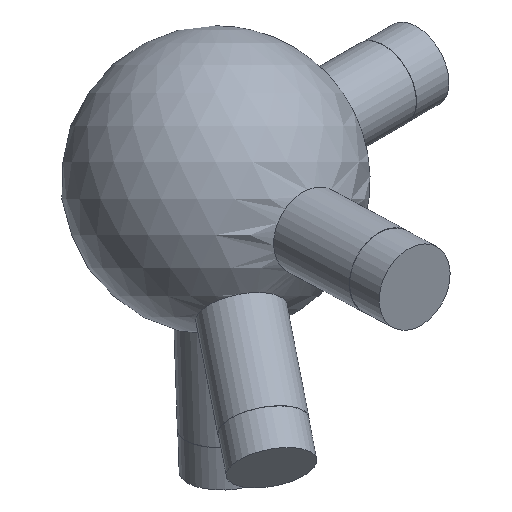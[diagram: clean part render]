
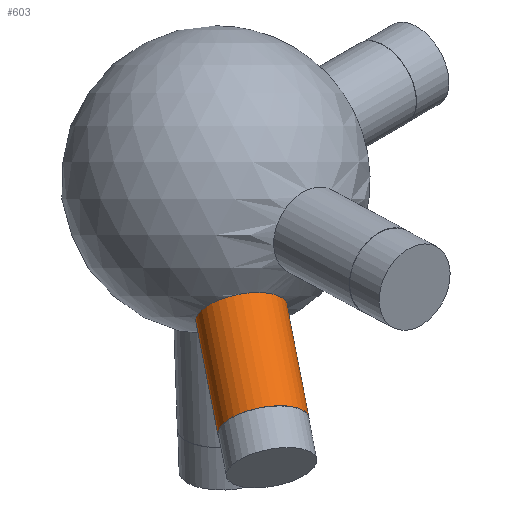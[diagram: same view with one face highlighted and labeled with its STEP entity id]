
A CAD part, front view. The second image highlights one B-rep face of the part: STEP entity #603.
In plain terms, the highlighted cylindrical face has radius 6 mm (diameter 12 mm), a full revolution.
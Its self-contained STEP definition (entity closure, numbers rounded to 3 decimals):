
#35 = SPHERICAL_SURFACE('',#36,20.);
#36 = AXIS2_PLACEMENT_3D('',#37,#38,#39);
#37 = CARTESIAN_POINT('',(0.,0.,0.));
#38 = DIRECTION('',(0.,0.,1.));
#39 = DIRECTION('',(1.,0.,-0.));
#172 = EDGE_CURVE('',#173,#173,#175,.T.);
#173 = VERTEX_POINT('',#174);
#174 = CARTESIAN_POINT('',(3.347,-13.147,
    -14.695));
#175 = SURFACE_CURVE('',#176,(#181,#278),.PCURVE_S1.);
#176 = CIRCLE('',#177,6.);
#177 = AXIS2_PLACEMENT_3D('',#178,#179,#180);
#178 = CARTESIAN_POINT('',(3.347,-7.67,
    -17.145));
#179 = DIRECTION('',(0.175,-0.402,-0.899));
#180 = DIRECTION('',(0.,0.913,-0.408)
  );
#181 = PCURVE('',#35,#182);
#182 = DEFINITIONAL_REPRESENTATION('',(#183),#277);
#183 = B_SPLINE_CURVE_WITH_KNOTS('',8,(#184,#185,#186,#187,#188,#189,
    #190,#191,#192,#193,#194,#195,#196,#197,#198,#199,#200,#201,#202,
    #203,#204,#205,#206,#207,#208,#209,#210,#211,#212,#213,#214,#215,
    #216,#217,#218,#219,#220,#221,#222,#223,#224,#225,#226,#227,#228,
    #229,#230,#231,#232,#233,#234,#235,#236,#237,#238,#239,#240,#241,
    #242,#243,#244,#245,#246,#247,#248,#249,#250,#251,#252,#253,#254,
    #255,#256,#257,#258,#259,#260,#261,#262,#263,#264,#265,#266,#267,
    #268,#269,#270,#271,#272,#273,#274,#275,#276),.UNSPECIFIED.,.T.,.F.,
  (9,7,7,7,7,7,7,7,7,7,7,7,7,9),(3.142,3.927,
    4.614,4.915,5.197,5.461,
    5.709,5.941,6.159,6.363,
    6.746,7.415,8.42,9.425),
  .UNSPECIFIED.);
#184 = CARTESIAN_POINT('',(4.962,-0.825));
#185 = CARTESIAN_POINT('',(4.92,-0.832));
#186 = CARTESIAN_POINT('',(4.878,-0.841));
#187 = CARTESIAN_POINT('',(4.836,-0.852));
#188 = CARTESIAN_POINT('',(4.796,-0.865));
#189 = CARTESIAN_POINT('',(4.756,-0.88));
#190 = CARTESIAN_POINT('',(4.717,-0.897));
#191 = CARTESIAN_POINT('',(4.679,-0.915));
#192 = CARTESIAN_POINT('',(4.611,-0.952));
#193 = CARTESIAN_POINT('',(4.58,-0.971));
#194 = CARTESIAN_POINT('',(4.55,-0.991));
#195 = CARTESIAN_POINT('',(4.522,-1.012));
#196 = CARTESIAN_POINT('',(4.495,-1.034));
#197 = CARTESIAN_POINT('',(4.47,-1.056));
#198 = CARTESIAN_POINT('',(4.447,-1.08));
#199 = CARTESIAN_POINT('',(4.419,-1.115));
#200 = CARTESIAN_POINT('',(4.41,-1.125));
#201 = CARTESIAN_POINT('',(4.403,-1.136));
#202 = CARTESIAN_POINT('',(4.396,-1.147));
#203 = CARTESIAN_POINT('',(4.39,-1.158));
#204 = CARTESIAN_POINT('',(4.385,-1.169));
#205 = CARTESIAN_POINT('',(4.38,-1.18));
#206 = CARTESIAN_POINT('',(4.373,-1.202));
#207 = CARTESIAN_POINT('',(4.371,-1.213));
#208 = CARTESIAN_POINT('',(4.37,-1.223));
#209 = CARTESIAN_POINT('',(4.37,-1.234));
#210 = CARTESIAN_POINT('',(4.371,-1.244));
#211 = CARTESIAN_POINT('',(4.373,-1.255));
#212 = CARTESIAN_POINT('',(4.377,-1.265));
#213 = CARTESIAN_POINT('',(4.389,-1.286));
#214 = CARTESIAN_POINT('',(4.396,-1.295));
#215 = CARTESIAN_POINT('',(4.405,-1.305));
#216 = CARTESIAN_POINT('',(4.416,-1.315));
#217 = CARTESIAN_POINT('',(4.429,-1.324));
#218 = CARTESIAN_POINT('',(4.445,-1.333));
#219 = CARTESIAN_POINT('',(4.464,-1.342));
#220 = CARTESIAN_POINT('',(4.507,-1.359));
#221 = CARTESIAN_POINT('',(4.531,-1.366));
#222 = CARTESIAN_POINT('',(4.558,-1.374));
#223 = CARTESIAN_POINT('',(4.589,-1.381));
#224 = CARTESIAN_POINT('',(4.624,-1.388));
#225 = CARTESIAN_POINT('',(4.663,-1.394));
#226 = CARTESIAN_POINT('',(4.706,-1.4));
#227 = CARTESIAN_POINT('',(4.799,-1.409));
#228 = CARTESIAN_POINT('',(4.847,-1.413));
#229 = CARTESIAN_POINT('',(4.899,-1.417));
#230 = CARTESIAN_POINT('',(4.954,-1.419));
#231 = CARTESIAN_POINT('',(5.012,-1.421));
#232 = CARTESIAN_POINT('',(5.07,-1.422));
#233 = CARTESIAN_POINT('',(5.129,-1.422));
#234 = CARTESIAN_POINT('',(5.242,-1.42));
#235 = CARTESIAN_POINT('',(5.296,-1.419));
#236 = CARTESIAN_POINT('',(5.348,-1.416));
#237 = CARTESIAN_POINT('',(5.397,-1.414));
#238 = CARTESIAN_POINT('',(5.444,-1.41));
#239 = CARTESIAN_POINT('',(5.487,-1.406));
#240 = CARTESIAN_POINT('',(5.527,-1.401));
#241 = CARTESIAN_POINT('',(5.598,-1.391));
#242 = CARTESIAN_POINT('',(5.63,-1.386));
#243 = CARTESIAN_POINT('',(5.659,-1.381));
#244 = CARTESIAN_POINT('',(5.685,-1.375));
#245 = CARTESIAN_POINT('',(5.708,-1.369));
#246 = CARTESIAN_POINT('',(5.729,-1.362));
#247 = CARTESIAN_POINT('',(5.748,-1.356));
#248 = CARTESIAN_POINT('',(5.797,-1.337));
#249 = CARTESIAN_POINT('',(5.821,-1.324));
#250 = CARTESIAN_POINT('',(5.84,-1.31));
#251 = CARTESIAN_POINT('',(5.854,-1.296));
#252 = CARTESIAN_POINT('',(5.864,-1.282));
#253 = CARTESIAN_POINT('',(5.871,-1.268));
#254 = CARTESIAN_POINT('',(5.875,-1.253));
#255 = CARTESIAN_POINT('',(5.879,-1.214));
#256 = CARTESIAN_POINT('',(5.874,-1.189));
#257 = CARTESIAN_POINT('',(5.864,-1.164));
#258 = CARTESIAN_POINT('',(5.85,-1.139));
#259 = CARTESIAN_POINT('',(5.832,-1.115));
#260 = CARTESIAN_POINT('',(5.812,-1.091));
#261 = CARTESIAN_POINT('',(5.79,-1.069));
#262 = CARTESIAN_POINT('',(5.729,-1.014));
#263 = CARTESIAN_POINT('',(5.688,-0.983));
#264 = CARTESIAN_POINT('',(5.644,-0.954));
#265 = CARTESIAN_POINT('',(5.598,-0.927));
#266 = CARTESIAN_POINT('',(5.549,-0.903));
#267 = CARTESIAN_POINT('',(5.499,-0.882));
#268 = CARTESIAN_POINT('',(5.448,-0.864));
#269 = CARTESIAN_POINT('',(5.343,-0.835));
#270 = CARTESIAN_POINT('',(5.289,-0.823));
#271 = CARTESIAN_POINT('',(5.235,-0.815));
#272 = CARTESIAN_POINT('',(5.18,-0.81));
#273 = CARTESIAN_POINT('',(5.125,-0.809));
#274 = CARTESIAN_POINT('',(5.07,-0.811));
#275 = CARTESIAN_POINT('',(5.016,-0.816));
#276 = CARTESIAN_POINT('',(4.962,-0.825));
#277 = ( GEOMETRIC_REPRESENTATION_CONTEXT(2) 
PARAMETRIC_REPRESENTATION_CONTEXT() REPRESENTATION_CONTEXT('2D SPACE',''
  ) );
#278 = PCURVE('',#279,#284);
#279 = CYLINDRICAL_SURFACE('',#280,6.);
#280 = AXIS2_PLACEMENT_3D('',#281,#282,#283);
#281 = CARTESIAN_POINT('',(0.,0.,0.));
#282 = DIRECTION('',(0.175,-0.402,-0.899));
#283 = DIRECTION('',(0.,-0.913,0.408)
  );
#284 = DEFINITIONAL_REPRESENTATION('',(#285),#289);
#285 = LINE('',#286,#287);
#286 = CARTESIAN_POINT('',(-3.142,19.079));
#287 = VECTOR('',#288,1.);
#288 = DIRECTION('',(1.,0.));
#289 = ( GEOMETRIC_REPRESENTATION_CONTEXT(2) 
PARAMETRIC_REPRESENTATION_CONTEXT() REPRESENTATION_CONTEXT('2D SPACE',''
  ) );
#603 = ADVANCED_FACE('',(#604),#279,.T.);
#604 = FACE_BOUND('',#605,.T.);
#605 = EDGE_LOOP('',(#606,#629,#656,#657));
#606 = ORIENTED_EDGE('',*,*,#607,.T.);
#607 = EDGE_CURVE('',#173,#608,#610,.T.);
#608 = VERTEX_POINT('',#609);
#609 = CARTESIAN_POINT('',(6.204,-19.692,
    -29.325));
#610 = SEAM_CURVE('',#611,(#615,#622),.PCURVE_S1.);
#611 = LINE('',#612,#613);
#612 = CARTESIAN_POINT('',(0.,-5.477,
    2.45));
#613 = VECTOR('',#614,1.);
#614 = DIRECTION('',(0.175,-0.402,-0.899));
#615 = PCURVE('',#279,#616);
#616 = DEFINITIONAL_REPRESENTATION('',(#617),#621);
#617 = LINE('',#618,#619);
#618 = CARTESIAN_POINT('',(6.283,-0.));
#619 = VECTOR('',#620,1.);
#620 = DIRECTION('',(0.,1.));
#621 = ( GEOMETRIC_REPRESENTATION_CONTEXT(2) 
PARAMETRIC_REPRESENTATION_CONTEXT() REPRESENTATION_CONTEXT('2D SPACE',''
  ) );
#622 = PCURVE('',#279,#623);
#623 = DEFINITIONAL_REPRESENTATION('',(#624),#628);
#624 = LINE('',#625,#626);
#625 = CARTESIAN_POINT('',(0.,-0.));
#626 = VECTOR('',#627,1.);
#627 = DIRECTION('',(0.,1.));
#628 = ( GEOMETRIC_REPRESENTATION_CONTEXT(2) 
PARAMETRIC_REPRESENTATION_CONTEXT() REPRESENTATION_CONTEXT('2D SPACE',''
  ) );
#629 = ORIENTED_EDGE('',*,*,#630,.F.);
#630 = EDGE_CURVE('',#608,#608,#631,.T.);
#631 = SURFACE_CURVE('',#632,(#637,#644),.PCURVE_S1.);
#632 = CIRCLE('',#633,6.);
#633 = AXIS2_PLACEMENT_3D('',#634,#635,#636);
#634 = CARTESIAN_POINT('',(6.204,-14.215,
    -31.775));
#635 = DIRECTION('',(0.175,-0.402,-0.899));
#636 = DIRECTION('',(0.,-0.913,0.408)
  );
#637 = PCURVE('',#279,#638);
#638 = DEFINITIONAL_REPRESENTATION('',(#639),#643);
#639 = LINE('',#640,#641);
#640 = CARTESIAN_POINT('',(0.,35.359));
#641 = VECTOR('',#642,1.);
#642 = DIRECTION('',(1.,0.));
#643 = ( GEOMETRIC_REPRESENTATION_CONTEXT(2) 
PARAMETRIC_REPRESENTATION_CONTEXT() REPRESENTATION_CONTEXT('2D SPACE',''
  ) );
#644 = PCURVE('',#645,#650);
#645 = PLANE('',#646);
#646 = AXIS2_PLACEMENT_3D('',#647,#648,#649);
#647 = CARTESIAN_POINT('',(6.204,-14.215,
    -31.775));
#648 = DIRECTION('',(0.175,-0.402,-0.899));
#649 = DIRECTION('',(0.,-0.913,0.408)
  );
#650 = DEFINITIONAL_REPRESENTATION('',(#651),#655);
#651 = CIRCLE('',#652,6.);
#652 = AXIS2_PLACEMENT_2D('',#653,#654);
#653 = CARTESIAN_POINT('',(0.,0.));
#654 = DIRECTION('',(1.,0.));
#655 = ( GEOMETRIC_REPRESENTATION_CONTEXT(2) 
PARAMETRIC_REPRESENTATION_CONTEXT() REPRESENTATION_CONTEXT('2D SPACE',''
  ) );
#656 = ORIENTED_EDGE('',*,*,#607,.F.);
#657 = ORIENTED_EDGE('',*,*,#172,.T.);
